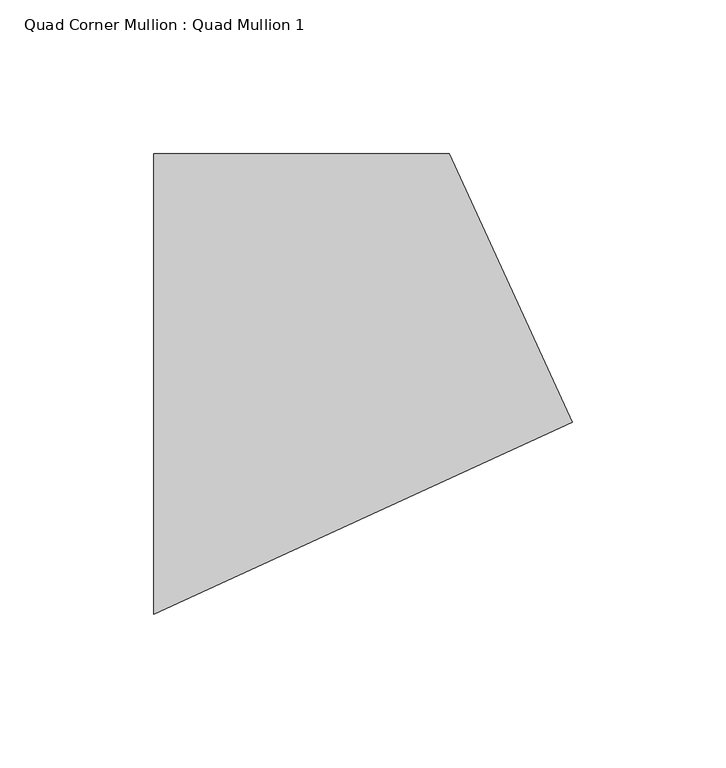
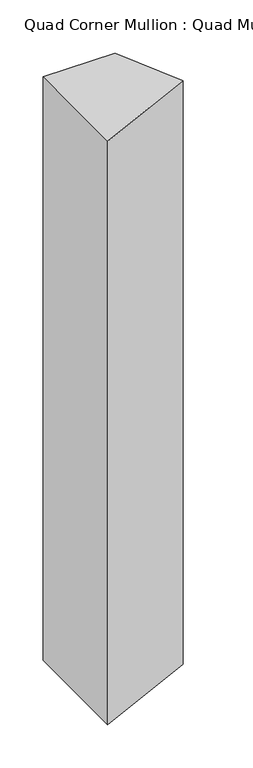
"""IFC4 building model written with IfcOpenShell, lengths in millimetres: member geometry, Quad Corner Mullion : Quad Mullion 1."""

from ifc_helpers import new_model, si_unit, frame, origin, place, context, project, spatial, polyline, outline, extrude, source, transform, mapped, element, save


def quad_corner_mullion_quad_mullion_1_4b298a92(model_context):
    return source(origin(), model_context, "Body", "SweptSolid", [
        extrude(outline(polyline([(88.2376678, -12.5779745), (-48.1569462, -75.0), (-48.1569462, 75.0), (48.1569462, 75.0), (88.2376678, -12.5779745)])), frame((0.0, 0.0, -824.5150656), z_axis=(0.0, 0.0, 1.0), x_axis=(1.0, 0.0, 0.0)), (0.0, 0.0, 1.0), 824.5150656),
    ])


if __name__ == "__main__":
    model = new_model("IFC4")
    model_context = context("Model", 3, world=origin())
    ifc_project = project(units=[si_unit("LENGTHUNIT", "METRE", prefix="MILLI")], contexts=[model_context])
    site = spatial("IfcSite", under=ifc_project)
    building = spatial("IfcBuilding", under=site)
    placement = place(None, origin())
    quad_corner_mullion_quad_mullion_1_shape = quad_corner_mullion_quad_mullion_1_4b298a92(model_context)
    element("IfcMember", 1, ObjectType="Quad Corner Mullion : Quad Mullion 1", at=placement, inside=building, context=model_context, shape_type="MappedRepresentation", body=[
        mapped(quad_corner_mullion_quad_mullion_1_shape, transform((0.0, 0.0, 0.0), x_axis=(1.0, 0.0, 0.0), y_axis=(0.0, 1.0, 0.0), z_axis=(0.0, 0.0, 1.0))),
    ])
    save(model, "model.ifc")
